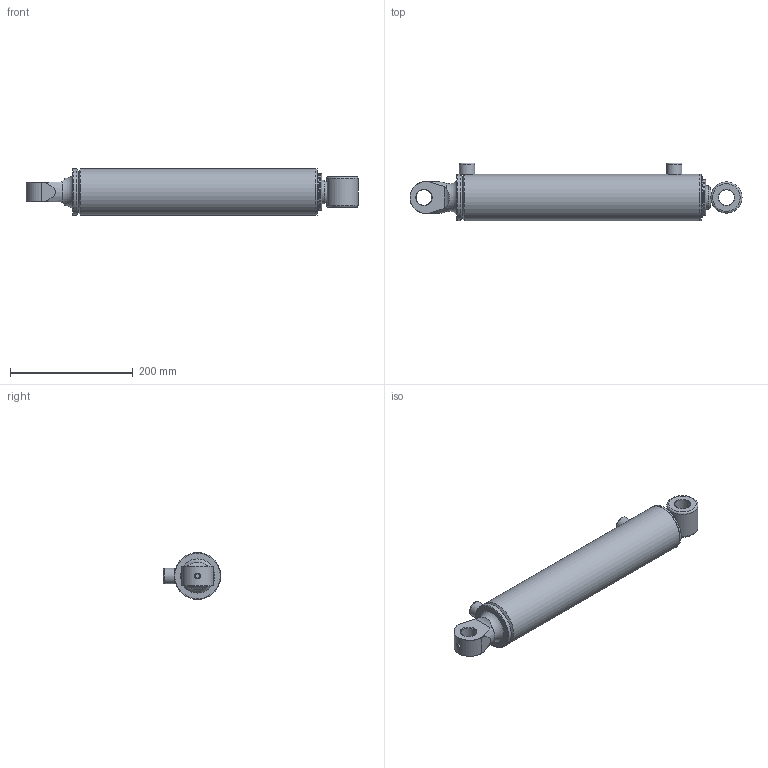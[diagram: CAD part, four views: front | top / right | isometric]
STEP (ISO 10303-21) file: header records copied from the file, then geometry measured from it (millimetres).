
FILE_DESCRIPTION(/* description */ ('Alibre Inc.'),/* implementation_level */ '2;1');
FILE_NAME(/* name */ 'export0',/* time_stamp */ '2016-08-16T09:55:49+12:00',/* author */ (''),/* organization */ (''),/* preprocessor_version */ 'ST-DEVELOPER v14',/* originating_system */ 'Alibre',/* authorisation */ '');
FILE_SCHEMA (('AUTOMOTIVE_DESIGN'));
Length unit declared in the file: centimetre
Bounding box: 541.13 x 94.2 x 76.2 mm (x, y, z)
Volume: 1357141.9 mm3; surface area: 319438.8 mm2
Topology: 12 solids, 12 shells, 150 faces, 308 edges, 192 vertices
Faces by surface type: cylinder 55, plane 51, cone 28, torus 13, sphere 2, bspline 1
Full cylindrical faces by diameter (mm): 2.5 x2, 7 x3, 8.3 x2, 8.8 x1, 15.25 x2, 23 x1, 23.622 x1, 25 x2, 25.4 x2, 25.45 x1, 38.1 x1, 38.18 x2, 38.35 x1, 44.45 x1, 47.62 x2, 47.63 x1, 48 x2, 50.8 x1, 56.5 x1, 57.66 x1, 58.9 x2, 59.87 x2, 60.2 x1, 62.13 x2, 63.39 x2, 63.4 x1, 63.5 x2, 66.7 x1, 76.2 x3
Entity records: 4139 total; most frequent: CARTESIAN_POINT 1185, DIRECTION 569, ORIENTED_EDGE 394, AXIS2_PLACEMENT_3D 300, FACE_BOUND 271, EDGE_LOOP 269, EDGE_CURVE 197, VERTEX_POINT 174
